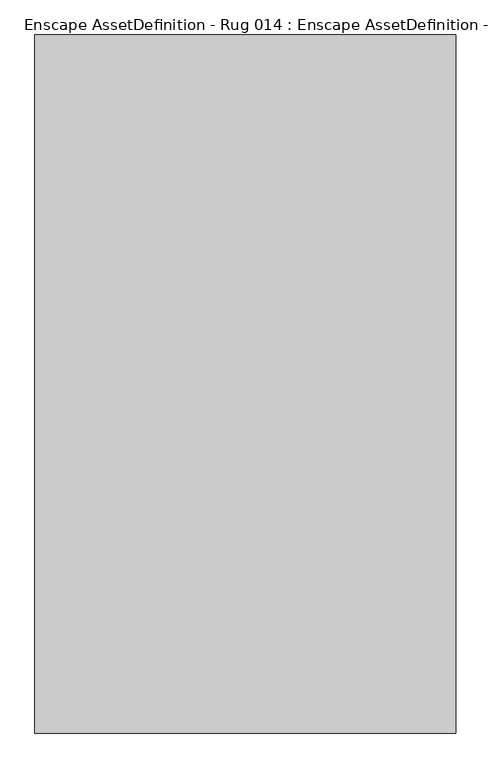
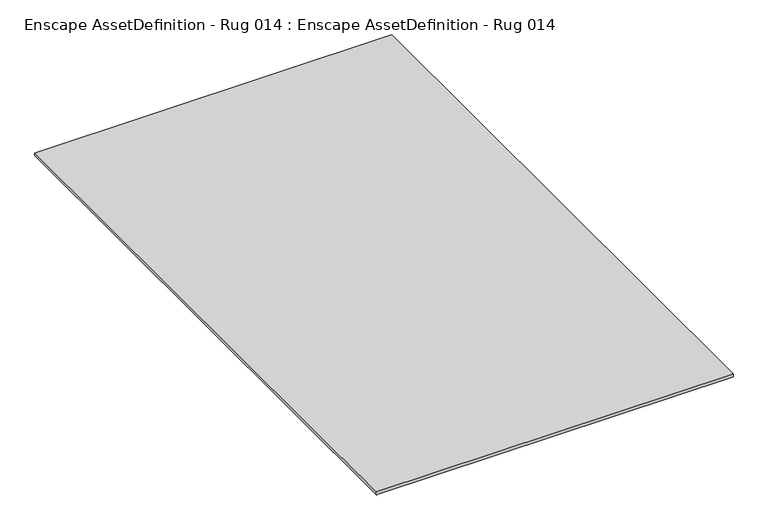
"""IFC4 building model written with IfcOpenShell, lengths in millimetres: geographic element geometry, Enscape AssetDefinition - Rug 014 : Enscape AssetDefinition - Rug 014."""

from ifc_helpers import new_model, si_unit, origin, place, context, project, spatial, triangles, source, transform, mapped, element, save


def enscape_assetdefinition_rug_014_enscape_assetdefinition_rug_3113469b(model_context):
    return source(origin(), model_context, "Body", "Tessellation", [
        triangles([(-753.1350615, 1244.3010841, 17.9754312), (-753.1350615, 1244.3010841, 5.361928), (-753.1353521, -1253.7220207, 17.9754312), (753.0424072, -1253.7223114, 17.975429), (753.0428432, 1244.3007935, 5.361928), (753.0428432, 1244.3007935, 17.975429), (-753.1353521, -1253.7220207, 5.361928), (753.0424072, -1253.7223114, 5.361928)], [[5, 2, 1], [8, 5, 6], [7, 8, 4], [2, 7, 3], [1, 3, 4], [2, 5, 8], [5, 1, 6], [8, 6, 4], [7, 4, 3], [2, 3, 1], [1, 4, 6], [2, 8, 7]]),
    ])


if __name__ == "__main__":
    model = new_model("IFC4")
    model_context = context("Model", 3, world=origin())
    ifc_project = project(units=[si_unit("LENGTHUNIT", "METRE", prefix="MILLI")], contexts=[model_context])
    site = spatial("IfcSite", under=ifc_project)
    building = spatial("IfcBuilding", under=site)
    placement = place(None, origin())
    enscape_assetdefinition_rug_014_enscape_assetdefinition_rug_shape = enscape_assetdefinition_rug_014_enscape_assetdefinition_rug_3113469b(model_context)
    element("IfcGeographicElement", 1, ObjectType="Enscape AssetDefinition - Rug 014 : Enscape AssetDefinition - Rug 014", at=placement, inside=building, context=model_context, shape_type="MappedRepresentation", body=[
        mapped(enscape_assetdefinition_rug_014_enscape_assetdefinition_rug_shape, transform((0.0, 0.0, 0.0), x_axis=(1.0, 0.0, 0.0), y_axis=(0.0, 1.0, 0.0), z_axis=(0.0, 0.0, 1.0))),
    ])
    save(model, "model.ifc")
